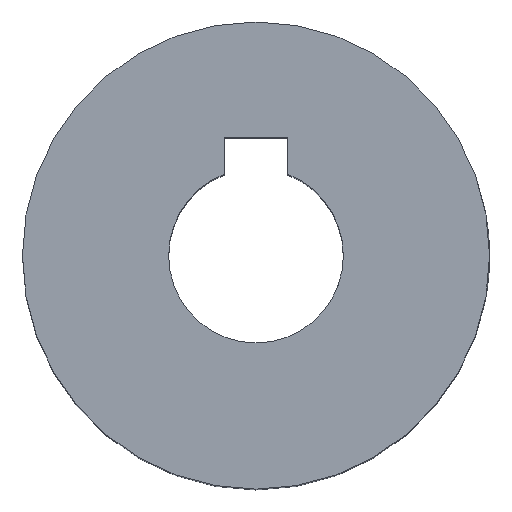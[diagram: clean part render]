
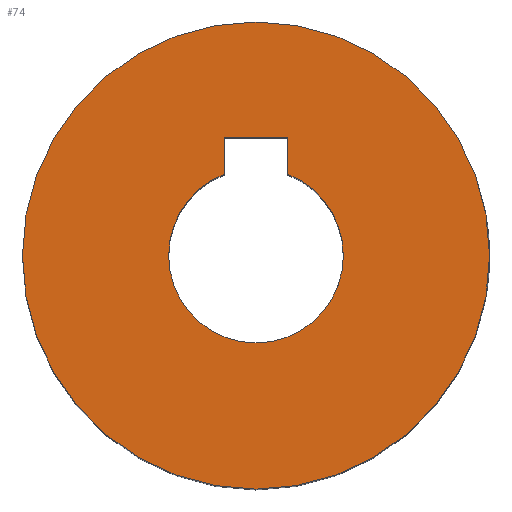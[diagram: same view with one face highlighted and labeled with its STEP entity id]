
A CAD part, top view. The second image highlights one B-rep face of the part: STEP entity #74.
In plain terms, the highlighted planar face has unit normal (0, 0, 1).
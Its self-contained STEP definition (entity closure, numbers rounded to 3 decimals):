
#7 = EDGE_LOOP ( 'NONE', ( #813, #603, #433, #473, #526, #252 ) ) ;
#22 = EDGE_LOOP ( 'NONE', ( #757, #824 ) ) ;
#28 = DIRECTION ( 'NONE',  ( 0., 0., -1. ) ) ;
#36 = CARTESIAN_POINT ( 'NONE',  ( -2.6, 6.634, 40.7 ) ) ;
#55 = DIRECTION ( 'NONE',  ( -1., 0., 0. ) ) ;
#69 = VERTEX_POINT ( 'NONE', #269 ) ;
#74 = ADVANCED_FACE ( 'NONE', ( #565, #934 ), #717, .T. ) ;
#82 = DIRECTION ( 'NONE',  ( 0., 0., -1. ) ) ;
#98 = DIRECTION ( 'NONE',  ( 0., 0., 1. ) ) ;
#125 = VERTEX_POINT ( 'NONE', #226 ) ;
#156 = VECTOR ( 'NONE', #472, 1000. ) ;
#165 = EDGE_CURVE ( 'NONE', #829, #462, #284, .T. ) ;
#171 = CARTESIAN_POINT ( 'NONE',  ( 19.05, 0., 40.7 ) ) ;
#200 = DIRECTION ( 'NONE',  ( 0., 0., 1. ) ) ;
#226 = CARTESIAN_POINT ( 'NONE',  ( 2.6, 9.634, 40.7 ) ) ;
#229 = AXIS2_PLACEMENT_3D ( 'NONE', #744, #82, #240 ) ;
#240 = DIRECTION ( 'NONE',  ( -1., 0., 0. ) ) ;
#245 = LINE ( 'NONE', #629, #794 ) ;
#252 = ORIENTED_EDGE ( 'NONE', *, *, #840, .T. ) ;
#253 = DIRECTION ( 'NONE',  ( -1., 0., 0. ) ) ;
#255 = LINE ( 'NONE', #906, #156 ) ;
#269 = CARTESIAN_POINT ( 'NONE',  ( -7.125, 0., 40.7 ) ) ;
#271 = EDGE_CURVE ( 'NONE', #462, #125, #255, .T. ) ;
#275 = CIRCLE ( 'NONE', #811, 7.125 ) ;
#278 = DIRECTION ( 'NONE',  ( 0., 0., -1. ) ) ;
#284 = LINE ( 'NONE', #816, #708 ) ;
#310 = AXIS2_PLACEMENT_3D ( 'NONE', #774, #278, #55 ) ;
#390 = EDGE_CURVE ( 'NONE', #608, #834, #907, .T. ) ;
#433 = ORIENTED_EDGE ( 'NONE', *, *, #638, .T. ) ;
#460 = CARTESIAN_POINT ( 'NONE',  ( 0., 0., 40.7 ) ) ;
#462 = VERTEX_POINT ( 'NONE', #892 ) ;
#472 = DIRECTION ( 'NONE',  ( 1., 0., 0. ) ) ;
#473 = ORIENTED_EDGE ( 'NONE', *, *, #165, .T. ) ;
#474 = CARTESIAN_POINT ( 'NONE',  ( 0., 0., 40.7 ) ) ;
#475 = AXIS2_PLACEMENT_3D ( 'NONE', #474, #98, #684 ) ;
#491 = DIRECTION ( 'NONE',  ( 1., 0., 0. ) ) ;
#506 = CIRCLE ( 'NONE', #229, 7.125 ) ;
#522 = EDGE_CURVE ( 'NONE', #545, #69, #844, .T. ) ;
#526 = ORIENTED_EDGE ( 'NONE', *, *, #271, .T. ) ;
#545 = VERTEX_POINT ( 'NONE', #847 ) ;
#547 = DIRECTION ( 'NONE',  ( 0., 0., 1. ) ) ;
#565 = FACE_BOUND ( 'NONE', #7, .T. ) ;
#581 = DIRECTION ( 'NONE',  ( 0., 1., 0. ) ) ;
#603 = ORIENTED_EDGE ( 'NONE', *, *, #522, .T. ) ;
#608 = VERTEX_POINT ( 'NONE', #171 ) ;
#613 = CARTESIAN_POINT ( 'NONE',  ( 0., 0., 40.7 ) ) ;
#629 = CARTESIAN_POINT ( 'NONE',  ( 2.6, 6.634, 40.7 ) ) ;
#638 = EDGE_CURVE ( 'NONE', #69, #829, #506, .T. ) ;
#653 = CARTESIAN_POINT ( 'NONE',  ( 2.6, 6.634, 40.7 ) ) ;
#684 = DIRECTION ( 'NONE',  ( 1., 0., 0. ) ) ;
#691 = EDGE_CURVE ( 'NONE', #834, #608, #891, .T. ) ;
#708 = VECTOR ( 'NONE', #581, 1000. ) ;
#717 = PLANE ( 'NONE',  #860 ) ;
#744 = CARTESIAN_POINT ( 'NONE',  ( 0., 0., 40.7 ) ) ;
#757 = ORIENTED_EDGE ( 'NONE', *, *, #691, .T. ) ;
#758 = DIRECTION ( 'NONE',  ( 0., -1., 0. ) ) ;
#763 = DIRECTION ( 'NONE',  ( 1., 0., 0. ) ) ;
#774 = CARTESIAN_POINT ( 'NONE',  ( 0., 0., 40.7 ) ) ;
#794 = VECTOR ( 'NONE', #758, 1000. ) ;
#811 = AXIS2_PLACEMENT_3D ( 'NONE', #613, #28, #253 ) ;
#813 = ORIENTED_EDGE ( 'NONE', *, *, #831, .T. ) ;
#816 = CARTESIAN_POINT ( 'NONE',  ( -2.6, 6.634, 40.7 ) ) ;
#824 = ORIENTED_EDGE ( 'NONE', *, *, #390, .T. ) ;
#828 = AXIS2_PLACEMENT_3D ( 'NONE', #460, #547, #763 ) ;
#829 = VERTEX_POINT ( 'NONE', #36 ) ;
#831 = EDGE_CURVE ( 'NONE', #908, #545, #275, .T. ) ;
#834 = VERTEX_POINT ( 'NONE', #904 ) ;
#840 = EDGE_CURVE ( 'NONE', #125, #908, #245, .T. ) ;
#844 = CIRCLE ( 'NONE', #310, 7.125 ) ;
#847 = CARTESIAN_POINT ( 'NONE',  ( 7.125, 0., 40.7 ) ) ;
#856 = CARTESIAN_POINT ( 'NONE',  ( 0., 0., 40.7 ) ) ;
#860 = AXIS2_PLACEMENT_3D ( 'NONE', #856, #200, #491 ) ;
#891 = CIRCLE ( 'NONE', #475, 19.05 ) ;
#892 = CARTESIAN_POINT ( 'NONE',  ( -2.6, 9.634, 40.7 ) ) ;
#904 = CARTESIAN_POINT ( 'NONE',  ( -19.05, 0., 40.7 ) ) ;
#906 = CARTESIAN_POINT ( 'NONE',  ( 2.6, 9.634, 40.7 ) ) ;
#907 = CIRCLE ( 'NONE', #828, 19.05 ) ;
#908 = VERTEX_POINT ( 'NONE', #653 ) ;
#934 = FACE_OUTER_BOUND ( 'NONE', #22, .T. ) ;
